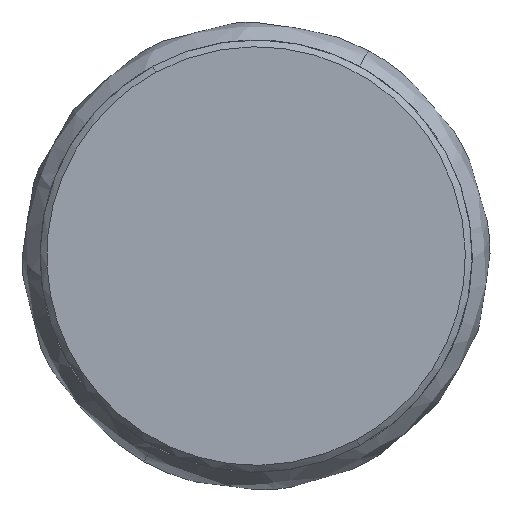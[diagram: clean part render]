
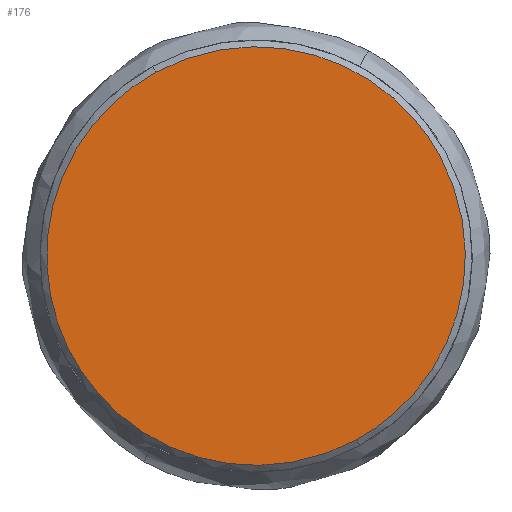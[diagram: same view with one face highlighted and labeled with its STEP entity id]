
A CAD part, left-side view. The second image highlights one B-rep face of the part: STEP entity #176.
In plain terms, the highlighted free-form (B-spline) face has degree [1, 1] with [2, 2] control points.
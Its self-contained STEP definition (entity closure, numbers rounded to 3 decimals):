
#176=ADVANCED_FACE('',(#349),#350,.T.);
#349=FACE_OUTER_BOUND('',#966,.T.);
#350=B_SPLINE_SURFACE_WITH_KNOTS('',1,1,((#967,#968),(#969,#970)),.UNSPECIFIED.,.F.,.F.,.F.,(2,2),(2,2),(0.0,18.5),(0.0,18.5),.UNSPECIFIED.);
#966=EDGE_LOOP('',(#1353,#1354,#1355));
#967=CARTESIAN_POINT('',(-37.0,-9.25,-9.25));
#968=CARTESIAN_POINT('',(-37.0,9.25,-9.25));
#969=CARTESIAN_POINT('',(-37.0,-9.25,9.25));
#970=CARTESIAN_POINT('',(-37.0,9.25,9.25));
#1353=ORIENTED_EDGE('',*,*,#1435,.F.);
#1354=ORIENTED_EDGE('',*,*,#1434,.F.);
#1355=ORIENTED_EDGE('',*,*,#1547,.F.);
#1434=EDGE_CURVE('',#1667,#1670,#1671,.T.);
#1435=EDGE_CURVE('',#1670,#1672,#1673,.T.);
#1547=EDGE_CURVE('',#1672,#1667,#1830,.T.);
#1667=VERTEX_POINT('',#2177);
#1670=VERTEX_POINT('',#2181);
#1671=(B_SPLINE_CURVE(2,(#2183,#2184,#2185),.UNSPECIFIED.,.F.,.F.)B_SPLINE_CURVE_WITH_KNOTS((3,3),(4.712,6.283),.UNSPECIFIED.)RATIONAL_B_SPLINE_CURVE((1.0,0.707,1.0))BOUNDED_CURVE()REPRESENTATION_ITEM('')GEOMETRIC_REPRESENTATION_ITEM()CURVE());
#1672=VERTEX_POINT('',#2192);
#1673=(B_SPLINE_CURVE(2,(#2194,#2195,#2196),.UNSPECIFIED.,.F.,.F.)B_SPLINE_CURVE_WITH_KNOTS((3,3),(0.,1.571),.UNSPECIFIED.)RATIONAL_B_SPLINE_CURVE((1.0,0.707,1.0))BOUNDED_CURVE()REPRESENTATION_ITEM('')GEOMETRIC_REPRESENTATION_ITEM()CURVE());
#1830=(B_SPLINE_CURVE(2,(#2708,#2709,#2710,#2711,#2712),.UNSPECIFIED.,.F.,.F.)B_SPLINE_CURVE_WITH_KNOTS((3,2,3),(1.571,3.142,4.712),.UNSPECIFIED.)RATIONAL_B_SPLINE_CURVE((1.0,0.707,1.0,0.707,1.0))BOUNDED_CURVE()REPRESENTATION_ITEM('')GEOMETRIC_REPRESENTATION_ITEM()CURVE());
#2177=CARTESIAN_POINT('',(-37.,4.435,8.118));
#2181=CARTESIAN_POINT('',(-37.0,-8.118,4.435));
#2183=CARTESIAN_POINT('',(-37.,4.435,8.118));
#2184=CARTESIAN_POINT('',(-37.,-3.683,12.552));
#2185=CARTESIAN_POINT('',(-37.0,-8.118,4.435));
#2192=CARTESIAN_POINT('',(-37.0,-4.435,-8.118));
#2194=CARTESIAN_POINT('',(-37.0,-8.118,4.435));
#2195=CARTESIAN_POINT('',(-37.,-12.552,-3.683));
#2196=CARTESIAN_POINT('',(-37.0,-4.435,-8.118));
#2708=CARTESIAN_POINT('',(-37.0,-4.435,-8.118));
#2709=CARTESIAN_POINT('',(-37.,3.683,-12.552));
#2710=CARTESIAN_POINT('',(-37.,8.118,-4.435));
#2711=CARTESIAN_POINT('',(-37.,12.552,3.683));
#2712=CARTESIAN_POINT('',(-37.,4.435,8.118));
